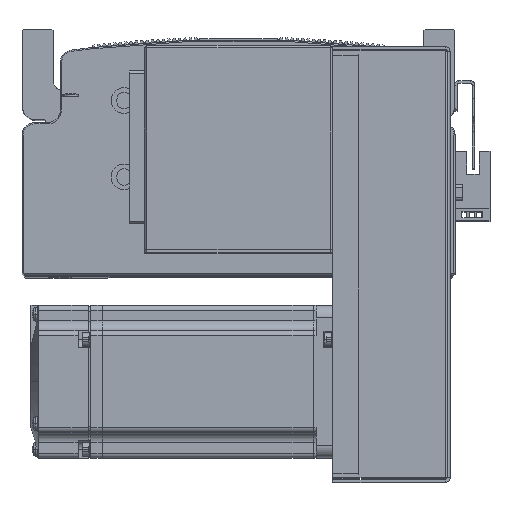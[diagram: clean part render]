
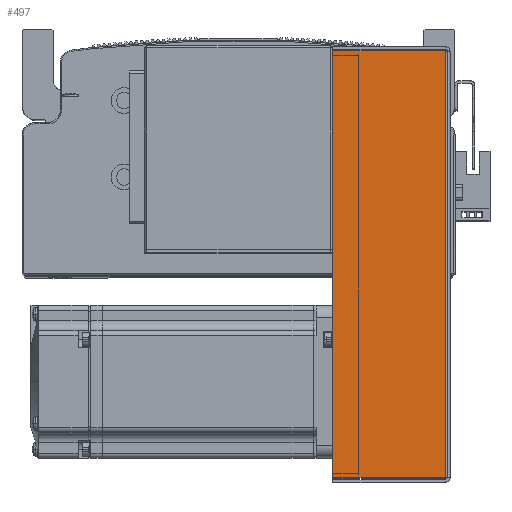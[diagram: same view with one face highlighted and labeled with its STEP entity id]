
A CAD part, top view. The second image highlights one B-rep face of the part: STEP entity #497.
In plain terms, the highlighted planar face has unit normal (0, 0, 1) as drawn and (0, 0, -1) by its records, which use the part's own axes.
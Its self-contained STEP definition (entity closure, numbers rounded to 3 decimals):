
#497 = ADVANCED_FACE ( 'NONE', ( #31984 ), #71188, .F. ) ;
#11176 = CARTESIAN_POINT ( 'NONE',  ( 0., 0.737, -40.5 ) ) ;
#11231 = DIRECTION ( 'NONE',  ( 1., 0., 0. ) ) ;
#11236 = CARTESIAN_POINT ( 'NONE',  ( -83.793, 0., -40.5 ) ) ;
#11243 = DIRECTION ( 'NONE',  ( 0., 1., 0. ) ) ;
#11267 = CARTESIAN_POINT ( 'NONE',  ( 83.793, 0., -40.5 ) ) ;
#11298 = DIRECTION ( 'NONE',  ( 0., 1., 0. ) ) ;
#11333 = DIRECTION ( 'NONE',  ( 1., 0., 0. ) ) ;
#11374 = CARTESIAN_POINT ( 'NONE',  ( 84.5, 45., -40.5 ) ) ;
#12754 = LINE ( 'NONE', #11236, #12798 ) ;
#12773 = VECTOR ( 'NONE', #11231, 1000. ) ;
#12779 = LINE ( 'NONE', #11176, #12773 ) ;
#12798 = VECTOR ( 'NONE', #11298, 1000. ) ;
#12822 = LINE ( 'NONE', #11374, #12824 ) ;
#12824 = VECTOR ( 'NONE', #11333, 1000. ) ;
#12825 = VECTOR ( 'NONE', #11243, 1000. ) ;
#12860 = LINE ( 'NONE', #11267, #12825 ) ;
#24307 = EDGE_LOOP ( 'NONE', ( #56265, #56383, #56267, #56387 ) ) ;
#24809 = VERTEX_POINT ( 'NONE', #39560 ) ;
#24823 = VERTEX_POINT ( 'NONE', #39515 ) ;
#24849 = VERTEX_POINT ( 'NONE', #39577 ) ;
#24858 = VERTEX_POINT ( 'NONE', #39532 ) ;
#31984 = FACE_OUTER_BOUND ( 'NONE', #24307, .T. ) ;
#36875 = AXIS2_PLACEMENT_3D ( 'NONE', #71230, #71205, #71207 ) ;
#39515 = CARTESIAN_POINT ( 'NONE',  ( -83.793, 45., -40.5 ) ) ;
#39532 = CARTESIAN_POINT ( 'NONE',  ( -83.793, 0.737, -40.5 ) ) ;
#39560 = CARTESIAN_POINT ( 'NONE',  ( 83.793, 45., -40.5 ) ) ;
#39577 = CARTESIAN_POINT ( 'NONE',  ( 83.793, 0.737, -40.5 ) ) ;
#54731 = EDGE_CURVE ( 'NONE', #24858, #24849, #12779, .T. ) ;
#54739 = EDGE_CURVE ( 'NONE', #24858, #24823, #12754, .T. ) ;
#54747 = EDGE_CURVE ( 'NONE', #24849, #24809, #12860, .T. ) ;
#54796 = EDGE_CURVE ( 'NONE', #24823, #24809, #12822, .T. ) ;
#56265 = ORIENTED_EDGE ( 'NONE', *, *, #54731, .F. ) ;
#56267 = ORIENTED_EDGE ( 'NONE', *, *, #54796, .T. ) ;
#56383 = ORIENTED_EDGE ( 'NONE', *, *, #54739, .T. ) ;
#56387 = ORIENTED_EDGE ( 'NONE', *, *, #54747, .F. ) ;
#71188 = PLANE ( 'NONE',  #36875 ) ;
#71205 = DIRECTION ( 'NONE',  ( 0., 0., 1. ) ) ;
#71207 = DIRECTION ( 'NONE',  ( 0., -1., 0. ) ) ;
#71230 = CARTESIAN_POINT ( 'NONE',  ( 0., 0., -40.5 ) ) ;
